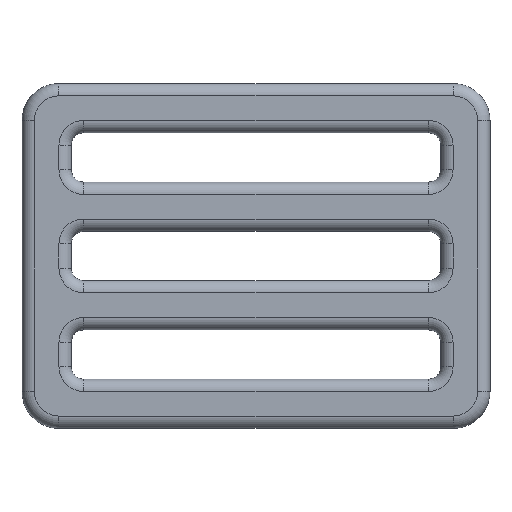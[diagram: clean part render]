
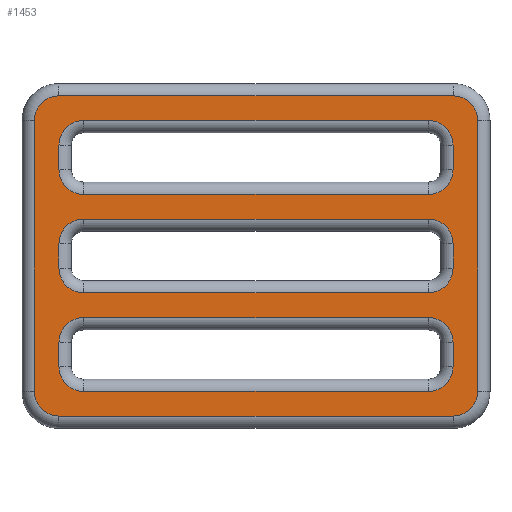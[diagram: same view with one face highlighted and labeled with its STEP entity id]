
A CAD part, top view. The second image highlights one B-rep face of the part: STEP entity #1453.
In plain terms, the highlighted planar face has unit normal (0, 0, 1).
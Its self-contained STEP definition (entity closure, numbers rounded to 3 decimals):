
#15=FACE_BOUND('',#390,.T.);
#16=FACE_BOUND('',#391,.T.);
#17=FACE_BOUND('',#392,.T.);
#23=PLANE('',#1583);
#40=LINE('',#2344,#136);
#42=LINE('',#2356,#138);
#44=LINE('',#2368,#140);
#45=LINE('',#2376,#141);
#54=LINE('',#2401,#150);
#55=LINE('',#2405,#151);
#56=LINE('',#2409,#152);
#57=LINE('',#2412,#153);
#58=LINE('',#2417,#154);
#59=LINE('',#2421,#155);
#60=LINE('',#2425,#156);
#61=LINE('',#2428,#157);
#62=LINE('',#2433,#158);
#63=LINE('',#2437,#159);
#64=LINE('',#2441,#160);
#65=LINE('',#2444,#161);
#136=VECTOR('',#1796,10.);
#138=VECTOR('',#1810,10.);
#140=VECTOR('',#1824,10.);
#141=VECTOR('',#1835,10.);
#150=VECTOR('',#1860,10.);
#151=VECTOR('',#1863,10.);
#152=VECTOR('',#1866,10.);
#153=VECTOR('',#1869,10.);
#154=VECTOR('',#1872,10.);
#155=VECTOR('',#1875,10.);
#156=VECTOR('',#1878,10.);
#157=VECTOR('',#1881,10.);
#158=VECTOR('',#1884,10.);
#159=VECTOR('',#1887,10.);
#160=VECTOR('',#1890,10.);
#161=VECTOR('',#1893,10.);
#291=FACE_OUTER_BOUND('',#389,.T.);
#389=EDGE_LOOP('',(#1009,#1010,#1011,#1012,#1013,#1014,#1015,#1016));
#390=EDGE_LOOP('',(#1017,#1018,#1019,#1020,#1021,#1022,#1023,#1024));
#391=EDGE_LOOP('',(#1025,#1026,#1027,#1028,#1029,#1030,#1031,#1032));
#392=EDGE_LOOP('',(#1033,#1034,#1035,#1036,#1037,#1038,#1039,#1040));
#482=CIRCLE('',#1555,2.);
#488=CIRCLE('',#1563,2.);
#492=CIRCLE('',#1569,2.);
#496=CIRCLE('',#1575,2.);
#499=CIRCLE('',#1584,2.);
#500=CIRCLE('',#1585,2.);
#501=CIRCLE('',#1586,2.);
#502=CIRCLE('',#1587,2.);
#503=CIRCLE('',#1588,2.);
#504=CIRCLE('',#1589,2.);
#505=CIRCLE('',#1590,2.);
#506=CIRCLE('',#1591,2.);
#507=CIRCLE('',#1592,2.);
#508=CIRCLE('',#1593,2.);
#509=CIRCLE('',#1594,2.);
#510=CIRCLE('',#1595,2.);
#610=VERTEX_POINT('',#2332);
#611=VERTEX_POINT('',#2334);
#613=VERTEX_POINT('',#2340);
#615=VERTEX_POINT('',#2346);
#617=VERTEX_POINT('',#2352);
#619=VERTEX_POINT('',#2358);
#621=VERTEX_POINT('',#2364);
#623=VERTEX_POINT('',#2370);
#630=VERTEX_POINT('',#2397);
#631=VERTEX_POINT('',#2398);
#632=VERTEX_POINT('',#2400);
#633=VERTEX_POINT('',#2402);
#634=VERTEX_POINT('',#2404);
#635=VERTEX_POINT('',#2406);
#636=VERTEX_POINT('',#2408);
#637=VERTEX_POINT('',#2410);
#638=VERTEX_POINT('',#2413);
#639=VERTEX_POINT('',#2414);
#640=VERTEX_POINT('',#2416);
#641=VERTEX_POINT('',#2418);
#642=VERTEX_POINT('',#2420);
#643=VERTEX_POINT('',#2422);
#644=VERTEX_POINT('',#2424);
#645=VERTEX_POINT('',#2426);
#646=VERTEX_POINT('',#2429);
#647=VERTEX_POINT('',#2430);
#648=VERTEX_POINT('',#2432);
#649=VERTEX_POINT('',#2434);
#650=VERTEX_POINT('',#2436);
#651=VERTEX_POINT('',#2438);
#652=VERTEX_POINT('',#2440);
#653=VERTEX_POINT('',#2442);
#738=EDGE_CURVE('',#610,#611,#482,.T.);
#743=EDGE_CURVE('',#611,#613,#40,.T.);
#746=EDGE_CURVE('',#613,#615,#488,.T.);
#749=EDGE_CURVE('',#615,#617,#42,.T.);
#752=EDGE_CURVE('',#617,#619,#492,.T.);
#755=EDGE_CURVE('',#619,#621,#44,.T.);
#758=EDGE_CURVE('',#621,#623,#496,.T.);
#759=EDGE_CURVE('',#623,#610,#45,.T.);
#770=EDGE_CURVE('',#630,#631,#499,.T.);
#771=EDGE_CURVE('',#632,#630,#54,.T.);
#772=EDGE_CURVE('',#633,#632,#500,.T.);
#773=EDGE_CURVE('',#634,#633,#55,.T.);
#774=EDGE_CURVE('',#635,#634,#501,.T.);
#775=EDGE_CURVE('',#636,#635,#56,.T.);
#776=EDGE_CURVE('',#637,#636,#502,.T.);
#777=EDGE_CURVE('',#631,#637,#57,.T.);
#778=EDGE_CURVE('',#638,#639,#503,.T.);
#779=EDGE_CURVE('',#640,#638,#58,.T.);
#780=EDGE_CURVE('',#641,#640,#504,.T.);
#781=EDGE_CURVE('',#642,#641,#59,.T.);
#782=EDGE_CURVE('',#643,#642,#505,.T.);
#783=EDGE_CURVE('',#644,#643,#60,.T.);
#784=EDGE_CURVE('',#645,#644,#506,.T.);
#785=EDGE_CURVE('',#639,#645,#61,.T.);
#786=EDGE_CURVE('',#646,#647,#507,.T.);
#787=EDGE_CURVE('',#648,#646,#62,.T.);
#788=EDGE_CURVE('',#649,#648,#508,.T.);
#789=EDGE_CURVE('',#650,#649,#63,.T.);
#790=EDGE_CURVE('',#651,#650,#509,.T.);
#791=EDGE_CURVE('',#652,#651,#64,.T.);
#792=EDGE_CURVE('',#653,#652,#510,.T.);
#793=EDGE_CURVE('',#647,#653,#65,.T.);
#1009=ORIENTED_EDGE('',*,*,#770,.F.);
#1010=ORIENTED_EDGE('',*,*,#771,.F.);
#1011=ORIENTED_EDGE('',*,*,#772,.F.);
#1012=ORIENTED_EDGE('',*,*,#773,.F.);
#1013=ORIENTED_EDGE('',*,*,#774,.F.);
#1014=ORIENTED_EDGE('',*,*,#775,.F.);
#1015=ORIENTED_EDGE('',*,*,#776,.F.);
#1016=ORIENTED_EDGE('',*,*,#777,.F.);
#1017=ORIENTED_EDGE('',*,*,#778,.F.);
#1018=ORIENTED_EDGE('',*,*,#779,.F.);
#1019=ORIENTED_EDGE('',*,*,#780,.F.);
#1020=ORIENTED_EDGE('',*,*,#781,.F.);
#1021=ORIENTED_EDGE('',*,*,#782,.F.);
#1022=ORIENTED_EDGE('',*,*,#783,.F.);
#1023=ORIENTED_EDGE('',*,*,#784,.F.);
#1024=ORIENTED_EDGE('',*,*,#785,.F.);
#1025=ORIENTED_EDGE('',*,*,#786,.F.);
#1026=ORIENTED_EDGE('',*,*,#787,.F.);
#1027=ORIENTED_EDGE('',*,*,#788,.F.);
#1028=ORIENTED_EDGE('',*,*,#789,.F.);
#1029=ORIENTED_EDGE('',*,*,#790,.F.);
#1030=ORIENTED_EDGE('',*,*,#791,.F.);
#1031=ORIENTED_EDGE('',*,*,#792,.F.);
#1032=ORIENTED_EDGE('',*,*,#793,.F.);
#1033=ORIENTED_EDGE('',*,*,#738,.F.);
#1034=ORIENTED_EDGE('',*,*,#759,.F.);
#1035=ORIENTED_EDGE('',*,*,#758,.F.);
#1036=ORIENTED_EDGE('',*,*,#755,.F.);
#1037=ORIENTED_EDGE('',*,*,#752,.F.);
#1038=ORIENTED_EDGE('',*,*,#749,.F.);
#1039=ORIENTED_EDGE('',*,*,#746,.F.);
#1040=ORIENTED_EDGE('',*,*,#743,.F.);
#1453=ADVANCED_FACE('',(#291,#15,#16,#17),#23,.T.);
#1555=AXIS2_PLACEMENT_3D('',#2335,#1785,#1786);
#1563=AXIS2_PLACEMENT_3D('',#2350,#1803,#1804);
#1569=AXIS2_PLACEMENT_3D('',#2362,#1817,#1818);
#1575=AXIS2_PLACEMENT_3D('',#2374,#1831,#1832);
#1583=AXIS2_PLACEMENT_3D('',#2396,#1856,#1857);
#1584=AXIS2_PLACEMENT_3D('',#2399,#1858,#1859);
#1585=AXIS2_PLACEMENT_3D('',#2403,#1861,#1862);
#1586=AXIS2_PLACEMENT_3D('',#2407,#1864,#1865);
#1587=AXIS2_PLACEMENT_3D('',#2411,#1867,#1868);
#1588=AXIS2_PLACEMENT_3D('',#2415,#1870,#1871);
#1589=AXIS2_PLACEMENT_3D('',#2419,#1873,#1874);
#1590=AXIS2_PLACEMENT_3D('',#2423,#1876,#1877);
#1591=AXIS2_PLACEMENT_3D('',#2427,#1879,#1880);
#1592=AXIS2_PLACEMENT_3D('',#2431,#1882,#1883);
#1593=AXIS2_PLACEMENT_3D('',#2435,#1885,#1886);
#1594=AXIS2_PLACEMENT_3D('',#2439,#1888,#1889);
#1595=AXIS2_PLACEMENT_3D('',#2443,#1891,#1892);
#1785=DIRECTION('center_axis',(0.,0.,1.));
#1786=DIRECTION('ref_axis',(0.707,0.707,0.));
#1796=DIRECTION('',(-1.,0.,0.));
#1803=DIRECTION('center_axis',(0.,0.,1.));
#1804=DIRECTION('ref_axis',(-0.707,0.707,0.));
#1810=DIRECTION('',(0.,-1.,0.));
#1817=DIRECTION('center_axis',(0.,0.,1.));
#1818=DIRECTION('ref_axis',(-0.707,-0.707,0.));
#1824=DIRECTION('',(1.,0.,0.));
#1831=DIRECTION('center_axis',(0.,0.,1.));
#1832=DIRECTION('ref_axis',(0.707,-0.707,0.));
#1835=DIRECTION('',(0.,1.,0.));
#1856=DIRECTION('center_axis',(0.,0.,1.));
#1857=DIRECTION('ref_axis',(1.,0.,0.));
#1858=DIRECTION('center_axis',(0.,0.,-1.));
#1859=DIRECTION('ref_axis',(-0.707,0.707,0.));
#1860=DIRECTION('',(0.,1.,0.));
#1861=DIRECTION('center_axis',(0.,0.,-1.));
#1862=DIRECTION('ref_axis',(-0.707,-0.707,0.));
#1863=DIRECTION('',(-1.,0.,0.));
#1864=DIRECTION('center_axis',(0.,0.,-1.));
#1865=DIRECTION('ref_axis',(0.707,-0.707,0.));
#1866=DIRECTION('',(0.,-1.,0.));
#1867=DIRECTION('center_axis',(0.,0.,-1.));
#1868=DIRECTION('ref_axis',(0.707,0.707,0.));
#1869=DIRECTION('',(1.,0.,0.));
#1870=DIRECTION('center_axis',(0.,0.,1.));
#1871=DIRECTION('ref_axis',(0.707,0.707,0.));
#1872=DIRECTION('',(0.,1.,0.));
#1873=DIRECTION('center_axis',(0.,0.,1.));
#1874=DIRECTION('ref_axis',(0.707,-0.707,0.));
#1875=DIRECTION('',(1.,0.,0.));
#1876=DIRECTION('center_axis',(0.,0.,1.));
#1877=DIRECTION('ref_axis',(-0.707,-0.707,0.));
#1878=DIRECTION('',(0.,-1.,0.));
#1879=DIRECTION('center_axis',(0.,0.,1.));
#1880=DIRECTION('ref_axis',(-0.707,0.707,0.));
#1881=DIRECTION('',(-1.,0.,0.));
#1882=DIRECTION('center_axis',(0.,0.,1.));
#1883=DIRECTION('ref_axis',(0.707,0.707,0.));
#1884=DIRECTION('',(0.,1.,0.));
#1885=DIRECTION('center_axis',(0.,0.,1.));
#1886=DIRECTION('ref_axis',(0.707,-0.707,0.));
#1887=DIRECTION('',(1.,0.,0.));
#1888=DIRECTION('center_axis',(0.,0.,1.));
#1889=DIRECTION('ref_axis',(-0.707,-0.707,0.));
#1890=DIRECTION('',(0.,-1.,0.));
#1891=DIRECTION('center_axis',(0.,0.,1.));
#1892=DIRECTION('ref_axis',(-0.707,0.707,0.));
#1893=DIRECTION('',(-1.,0.,0.));
#2332=CARTESIAN_POINT('',(35.,7.,4.));
#2334=CARTESIAN_POINT('',(33.,9.,4.));
#2335=CARTESIAN_POINT('Origin',(33.,7.,4.));
#2340=CARTESIAN_POINT('',(5.,9.,4.));
#2344=CARTESIAN_POINT('',(11.5,9.,4.));
#2346=CARTESIAN_POINT('',(3.,7.,4.));
#2350=CARTESIAN_POINT('Origin',(5.,7.,4.));
#2352=CARTESIAN_POINT('',(3.,5.,4.));
#2356=CARTESIAN_POINT('',(3.,9.,4.));
#2358=CARTESIAN_POINT('',(5.,3.,4.));
#2362=CARTESIAN_POINT('Origin',(5.,5.,4.));
#2364=CARTESIAN_POINT('',(33.,3.,4.));
#2368=CARTESIAN_POINT('',(26.5,3.,4.));
#2370=CARTESIAN_POINT('',(35.,5.,4.));
#2374=CARTESIAN_POINT('Origin',(33.,5.,4.));
#2376=CARTESIAN_POINT('',(35.,11.,4.));
#2396=CARTESIAN_POINT('Origin',(19.,14.,4.));
#2397=CARTESIAN_POINT('',(1.,25.,4.));
#2398=CARTESIAN_POINT('',(3.,27.,4.));
#2399=CARTESIAN_POINT('Origin',(3.,25.,4.));
#2400=CARTESIAN_POINT('',(1.,3.,4.));
#2401=CARTESIAN_POINT('',(1.,21.,4.));
#2402=CARTESIAN_POINT('',(3.,1.,4.));
#2403=CARTESIAN_POINT('Origin',(3.,3.,4.));
#2404=CARTESIAN_POINT('',(35.,1.,4.));
#2405=CARTESIAN_POINT('',(9.5,1.,4.));
#2406=CARTESIAN_POINT('',(37.,3.,4.));
#2407=CARTESIAN_POINT('Origin',(35.,3.,4.));
#2408=CARTESIAN_POINT('',(37.,25.,4.));
#2409=CARTESIAN_POINT('',(37.,7.,4.));
#2410=CARTESIAN_POINT('',(35.,27.,4.));
#2411=CARTESIAN_POINT('Origin',(35.,25.,4.));
#2412=CARTESIAN_POINT('',(28.5,27.,4.));
#2413=CARTESIAN_POINT('',(35.,15.,4.));
#2414=CARTESIAN_POINT('',(33.,17.,4.));
#2415=CARTESIAN_POINT('Origin',(33.,15.,4.));
#2416=CARTESIAN_POINT('',(35.,13.,4.));
#2417=CARTESIAN_POINT('',(35.,15.,4.));
#2418=CARTESIAN_POINT('',(33.,11.,4.));
#2419=CARTESIAN_POINT('Origin',(33.,13.,4.));
#2420=CARTESIAN_POINT('',(5.,11.,4.));
#2421=CARTESIAN_POINT('',(26.5,11.,4.));
#2422=CARTESIAN_POINT('',(3.,13.,4.));
#2423=CARTESIAN_POINT('Origin',(5.,13.,4.));
#2424=CARTESIAN_POINT('',(3.,15.,4.));
#2425=CARTESIAN_POINT('',(3.,13.,4.));
#2426=CARTESIAN_POINT('',(5.,17.,4.));
#2427=CARTESIAN_POINT('Origin',(5.,15.,4.));
#2428=CARTESIAN_POINT('',(11.5,17.,4.));
#2429=CARTESIAN_POINT('',(35.,23.,4.));
#2430=CARTESIAN_POINT('',(33.,25.,4.));
#2431=CARTESIAN_POINT('Origin',(33.,23.,4.));
#2432=CARTESIAN_POINT('',(35.,21.,4.));
#2433=CARTESIAN_POINT('',(35.,19.,4.));
#2434=CARTESIAN_POINT('',(33.,19.,4.));
#2435=CARTESIAN_POINT('Origin',(33.,21.,4.));
#2436=CARTESIAN_POINT('',(5.,19.,4.));
#2437=CARTESIAN_POINT('',(26.5,19.,4.));
#2438=CARTESIAN_POINT('',(3.,21.,4.));
#2439=CARTESIAN_POINT('Origin',(5.,21.,4.));
#2440=CARTESIAN_POINT('',(3.,23.,4.));
#2441=CARTESIAN_POINT('',(3.,17.,4.));
#2442=CARTESIAN_POINT('',(5.,25.,4.));
#2443=CARTESIAN_POINT('Origin',(5.,23.,4.));
#2444=CARTESIAN_POINT('',(11.5,25.,4.));
